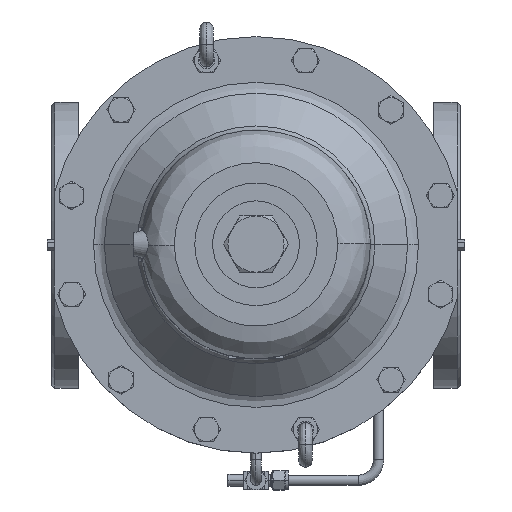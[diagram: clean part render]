
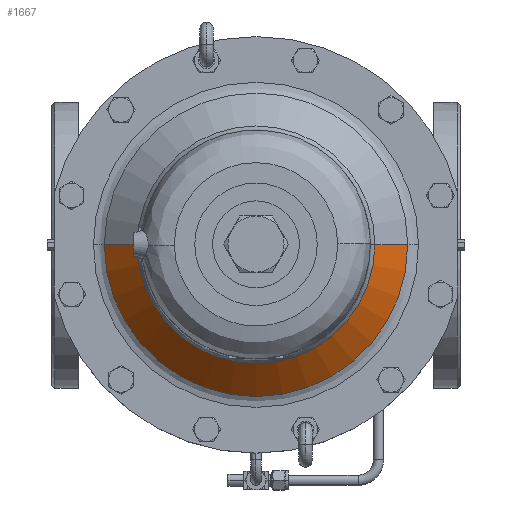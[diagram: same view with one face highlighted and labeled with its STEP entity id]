
A CAD part, top view. The second image highlights one B-rep face of the part: STEP entity #1667.
In plain terms, the highlighted free-form (B-spline) face has degree [2, 1] with [5, 2] control points.
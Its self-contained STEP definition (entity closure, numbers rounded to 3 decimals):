
#1667=ADVANCED_FACE('',(#5606),#5605,.T.);
#5605=( BOUNDED_SURFACE() B_SPLINE_SURFACE( 2,1,((#17043,#17044),(#17045,#17046),(#17047,#17048),(#17049,#17050),(#17051,#17052)), .UNSPECIFIED.,.F.,.F.,.F.) B_SPLINE_SURFACE_WITH_KNOTS((3,2,3),(2,2),(0.,0.5,1.),(0.,1.), .UNSPECIFIED. ) GEOMETRIC_REPRESENTATION_ITEM() RATIONAL_B_SPLINE_SURFACE(((1.,1.),(0.707,0.707),(1.,1.),(0.707,0.707),(1.,1.))) REPRESENTATION_ITEM('') SURFACE() );
#5606=FACE_OUTER_BOUND('',#17053,.T.);
#17043=CARTESIAN_POINT('',(0.,0.,186.971));
#17044=CARTESIAN_POINT('',(210.12,0.,-23.149));
#17045=CARTESIAN_POINT('',(0.,0.,186.971));
#17046=CARTESIAN_POINT('',(210.12,-210.12,-23.149));
#17047=CARTESIAN_POINT('',(0.,0.,186.971));
#17048=CARTESIAN_POINT('',(0.,-210.12,-23.149));
#17049=CARTESIAN_POINT('',(0.,0.,186.971));
#17050=CARTESIAN_POINT('',(-210.12,-210.12,-23.149));
#17051=CARTESIAN_POINT('',(0.,0.,186.971));
#17052=CARTESIAN_POINT('',(-210.12,0.,-23.149));
#17053=EDGE_LOOP('',(#21387,#21388,#21389,#21390));
#21387=ORIENTED_EDGE('',*,*,#23851,.T.);
#21388=ORIENTED_EDGE('',*,*,#23848,.T.);
#21389=ORIENTED_EDGE('',*,*,#23847,.F.);
#21390=ORIENTED_EDGE('',*,*,#23850,.F.);
#23847=EDGE_CURVE('',#31101,#31094,#31114,.T.);
#23848=EDGE_CURVE('',#31120,#31094,#31121,.T.);
#23850=EDGE_CURVE('',#31127,#31101,#31134,.T.);
#23851=EDGE_CURVE('',#31127,#31120,#31140,.T.);
#31094=VERTEX_POINT('',#42190);
#31101=VERTEX_POINT('',#42194);
#31114=CIRCLE('',#42205,148.577);
#31120=VERTEX_POINT('',#42206);
#31121=(BOUNDED_CURVE() B_SPLINE_CURVE(1,(#42207,#42208),.UNSPECIFIED.,.F.,.F.) B_SPLINE_CURVE_WITH_KNOTS((2,2),(0.554,0.707),.UNSPECIFIED.) CURVE() GEOMETRIC_REPRESENTATION_ITEM() RATIONAL_B_SPLINE_CURVE((1.,1.)) REPRESENTATION_ITEM('') );
#31127=VERTEX_POINT('',#42209);
#31134=(BOUNDED_CURVE() B_SPLINE_CURVE(1,(#42214,#42215),.UNSPECIFIED.,.F.,.F.) B_SPLINE_CURVE_WITH_KNOTS((2,2),(0.554,0.707),.UNSPECIFIED.) CURVE() GEOMETRIC_REPRESENTATION_ITEM() RATIONAL_B_SPLINE_CURVE((0.75,0.75)) REPRESENTATION_ITEM('') );
#31140=CIRCLE('',#42219,116.393);
#42190=CARTESIAN_POINT('',(-148.577,0.,38.393));
#42194=CARTESIAN_POINT('',(148.577,0.,38.393));
#42202=CARTESIAN_POINT('',(0.,0.,38.393));
#42203=DIRECTION('',(0.,0.,-1.));
#42204=DIRECTION('',(-1.,0.,0.));
#42205=AXIS2_PLACEMENT_3D('',#42202,#42203,#42204);
#42206=CARTESIAN_POINT('',(-116.393,0.,70.577));
#42207=CARTESIAN_POINT('',(-116.393,0.,70.577));
#42208=CARTESIAN_POINT('',(-148.577,0.,38.393));
#42209=CARTESIAN_POINT('',(116.393,0.,70.577));
#42214=CARTESIAN_POINT('',(116.393,0.,70.577));
#42215=CARTESIAN_POINT('',(148.577,0.,38.393));
#42216=CARTESIAN_POINT('',(0.,0.,70.577));
#42217=DIRECTION('',(0.,0.,-1.));
#42218=DIRECTION('',(-1.,0.,0.));
#42219=AXIS2_PLACEMENT_3D('',#42216,#42217,#42218);
